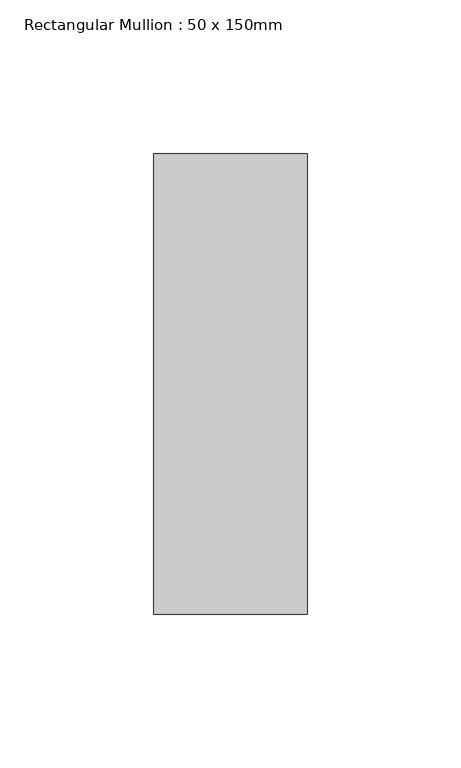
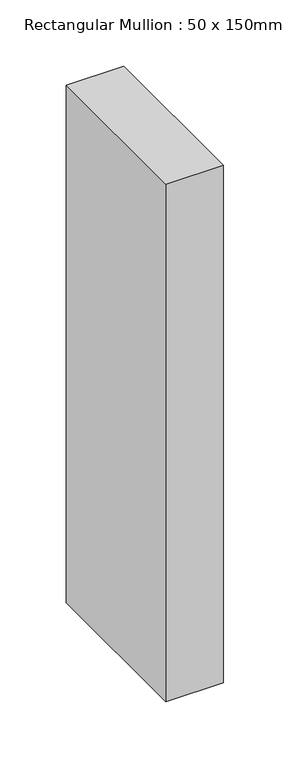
"""IFC4 building model written with IfcOpenShell, lengths in millimetres: member geometry, Rectangular Mullion : 50 x 150mm."""

from ifc_helpers import new_model, si_unit, frame, origin, place, context, project, spatial, polyline, outline, extrude, source, transform, mapped, element, save


def rectangular_mullion_50_x_150mm_721bbeef(model_context):
    return source(origin(), model_context, "Body", "SweptSolid", [
        extrude(outline(polyline([(0.0, 75.0), (0.0, -75.0), (-50.0, -75.0), (-50.0, 75.0), (0.0, 75.0)])), frame((0.0, 0.0, -475.7782178), z_axis=(0.0, 0.0, 1.0), x_axis=(1.0, 0.0, 0.0)), (0.0, 0.0, 1.0), 475.7782178),
    ])


if __name__ == "__main__":
    model = new_model("IFC4")
    model_context = context("Model", 3, world=origin())
    ifc_project = project(units=[si_unit("LENGTHUNIT", "METRE", prefix="MILLI")], contexts=[model_context])
    site = spatial("IfcSite", under=ifc_project)
    building = spatial("IfcBuilding", under=site)
    placement = place(None, origin())
    rectangular_mullion_50_x_150mm_shape = rectangular_mullion_50_x_150mm_721bbeef(model_context)
    element("IfcMember", 1, ObjectType="Rectangular Mullion : 50 x 150mm", at=placement, inside=building, context=model_context, shape_type="MappedRepresentation", body=[
        mapped(rectangular_mullion_50_x_150mm_shape, transform((0.0, 0.0, 0.0), x_axis=(1.0, 0.0, 0.0), y_axis=(0.0, 1.0, 0.0), z_axis=(0.0, 0.0, 1.0))),
    ])
    save(model, "model.ifc")
